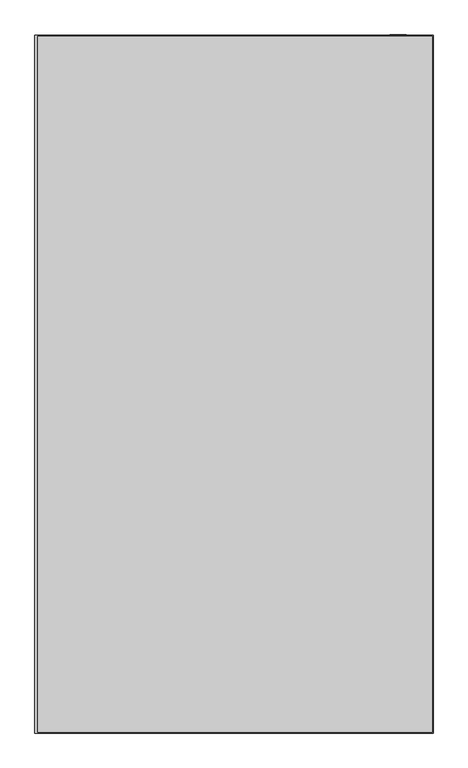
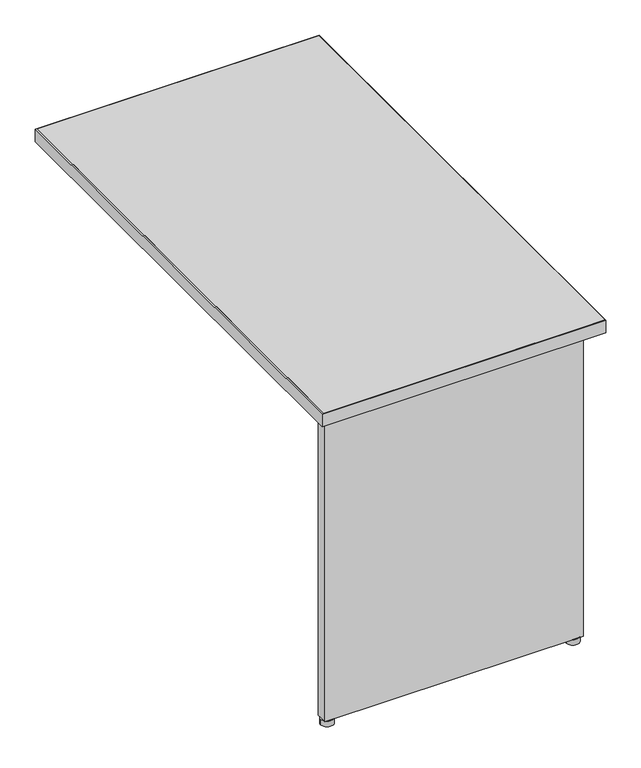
"""IFC4 building model written with IfcOpenShell, lengths in millimetres: furniture geometry, Steelcase - Kick Freestanding - Desk - Return - Full Height Modesty Panel : 24D x 42W - Right."""

from ifc_helpers import new_model, si_unit, point, frame, frame_2d, origin, origin_with_axes, place, context, project, spatial, polyline, circle_curve, trimmed, segment, composite_curve, outline, extrude, source, transform, mapped, element, save


def furniture_645c4b09(model_context):
    return source(origin(), model_context, "Body", "SweptSolid", [
        extrude(outline(composite_curve([segment(trimmed(circle_curve(frame_2d((2107.4714425, -1588.2145152)), 13.97), [point((2121.4414425, -1588.2145152))], [point((2093.5014425, -1588.2145152))], False, "CARTESIAN"), True, "CONTINUOUS"), segment(trimmed(circle_curve(frame_2d((2107.4714425, -1588.2145152)), 13.97), [point((2093.5014425, -1588.2145152))], [point((2121.4414425, -1588.2145152))], False, "CARTESIAN"), True, "CONTINUOUS")], self_intersect=False)), origin_with_axes(), (0.0, 0.0, 1.0), 12.7),
        extrude(outline(composite_curve([segment(trimmed(circle_curve(frame_2d((1579.6594425, -1588.2145152)), 13.97), [point((1593.6294425, -1588.2145152))], [point((1565.6894425, -1588.2145152))], False, "CARTESIAN"), True, "CONTINUOUS"), segment(trimmed(circle_curve(frame_2d((1579.6594425, -1588.2145152)), 13.97), [point((1565.6894425, -1588.2145152))], [point((1593.6294425, -1588.2145152))], False, "CARTESIAN"), True, "CONTINUOUS")], self_intersect=False)), origin_with_axes(), (0.0, 0.0, 1.0), 12.7),
        extrude(outline(polyline([(2122.7114425, -1575.6669152), (2122.7114425, -1600.1525098), (1568.2294473, -1600.1525098), (1568.2294473, -1575.6669041), (1691.2670317, -1575.6669041), (1691.2670317, -1598.0951136), (1790.9874347, -1598.0951136), (1790.9874347, -1575.6669041), (1899.7248382, -1575.6669041), (1899.7248382, -1598.0951136), (1999.4452412, -1598.0951136), (1999.4452412, -1575.6669152), (2122.7114425, -1575.6669152)])), frame((0.0, 0.0, 12.7), z_axis=(0.0, 0.0, 1.0), x_axis=(1.0, 0.0, 0.0)), (0.0, 0.0, 1.0), 682.244),
        extrude(outline(polyline([(2097.3114424, -546.0525152), (2122.7114425, -546.0525152), (2122.7114425, -1575.6669152), (2097.3114424, -1575.6669152), (2097.3114424, -546.0525152)])), frame((0.0, 0.0, 31.242), z_axis=(0.0, 0.0, 1.0), x_axis=(1.0, 0.0, 0.0)), (0.0, 0.0, 1.0), 663.702),
        extrude(outline(polyline([(1558.5012257, -548.0845152), (2162.8688425, -548.0845152), (2162.8688425, -1612.3445152), (1558.5012257, -1612.3445152), (1558.5012257, -548.0845152)])), frame((0.0, 0.0, 694.944), z_axis=(0.0, 0.0, 1.0), x_axis=(1.0, 0.0, 0.0)), (0.0, 0.0, 1.0), 28.956),
        extrude(outline(polyline([(1554.2594425, -546.8145152), (2163.8594425, -546.8145152), (2163.8594425, -1613.6145152), (1554.2594425, -1613.6145152), (1554.2594425, -546.8145152)]), holes=[polyline([(1558.5012257, -548.0845152), (1558.5012257, -1612.3445152), (2162.8688425, -1612.3445152), (2162.8688425, -548.0845152), (1558.5012257, -548.0845152)])]), frame((0.0, 0.0, 694.944), z_axis=(0.0, 0.0, 1.0), x_axis=(1.0, 0.0, 0.0)), (0.0, 0.0, 1.0), 28.956),
    ])


if __name__ == "__main__":
    model = new_model("IFC4")
    model_context = context("Model", 3, world=origin())
    ifc_project = project(units=[si_unit("LENGTHUNIT", "METRE", prefix="MILLI")], contexts=[model_context])
    site = spatial("IfcSite", under=ifc_project)
    building = spatial("IfcBuilding", under=site)
    placement = place(None, origin())
    furniture_shape = furniture_645c4b09(model_context)
    element("IfcFurniture", 1, ObjectType="Steelcase - Kick Freestanding - Desk - Return - Full Height Modesty Panel : 24D x 42W - Right", at=placement, inside=building, context=model_context, shape_type="MappedRepresentation", body=[
        mapped(furniture_shape, transform((0.0, 0.0, 0.0), x_axis=(1.0, 0.0, 0.0), y_axis=(0.0, 1.0, 0.0), z_axis=(0.0, 0.0, 1.0))),
    ])
    save(model, "model.ifc")
